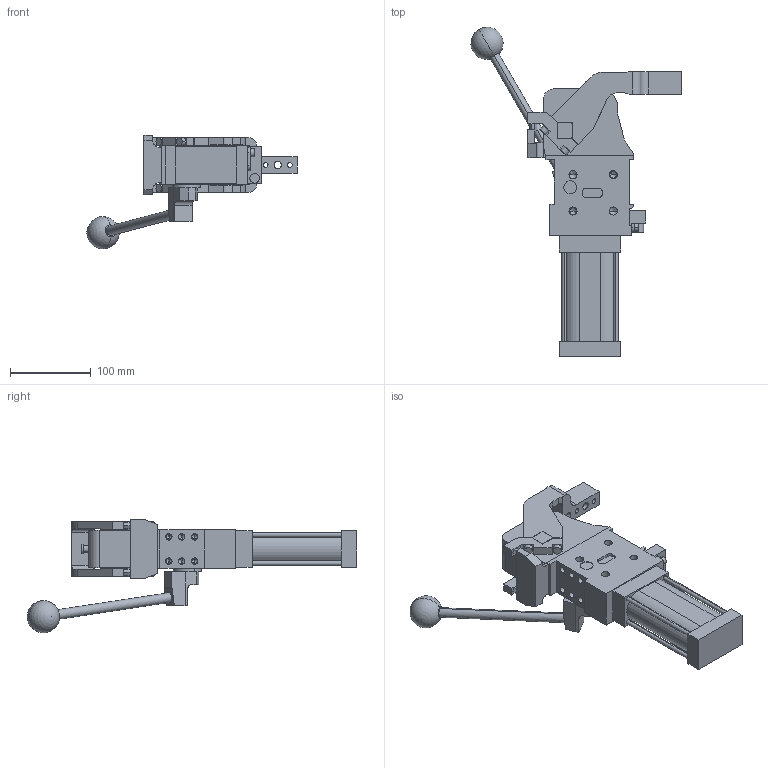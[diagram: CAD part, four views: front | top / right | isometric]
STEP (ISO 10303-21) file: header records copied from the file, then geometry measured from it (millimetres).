
FILE_DESCRIPTION (( 'STEP AP214' ), '1' );
FILE_NAME ('cplm50lbtv3csi1g_26.STEP', '2023-01-26T14:03:25', ( '' ), ( '' ), 'SwSTEP 2.0', 'SolidWorks 2022', '' );
FILE_SCHEMA (( 'AUTOMOTIVE_DESIGN' ));
Length unit declared in the file: millimetre
Products named in the file (5): leva_v3cs_cpl50t; comando_manuale_cplm_50; cplm50lbtv3csi1g_26; blocchetto_VEP_0; meccanica_cplm_50_tassello_esterno
Assembly tree (4 placements, depth 2):
  cplm50lbtv3csi1g_26
    meccanica_cplm_50_tassello_esterno
    blocchetto_VEP_0
    leva_v3cs_cpl50t
    comando_manuale_cplm_50
Bounding box: 260.54 x 408.46 x 141 mm (x, y, z)
Volume: 1512957.1 mm3; surface area: 193013.7 mm2
Topology: 4 solids, 4 shells, 470 faces, 1219 edges, 765 vertices
Faces by surface type: plane 245, cylinder 173, cone 50, sphere 2
Entity records: 15624 total; most frequent: DIRECTION 2484, CARTESIAN_POINT 2483, ORIENTED_EDGE 2336, EDGE_CURVE 1168, AXIS2_PLACEMENT_3D 845, VECTOR 794, LINE 794, VERTEX_POINT 762
